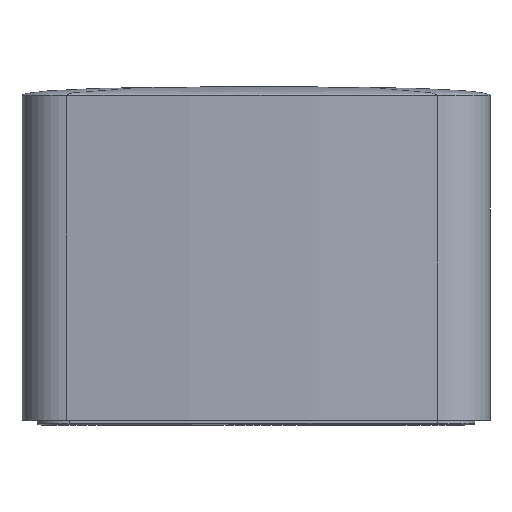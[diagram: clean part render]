
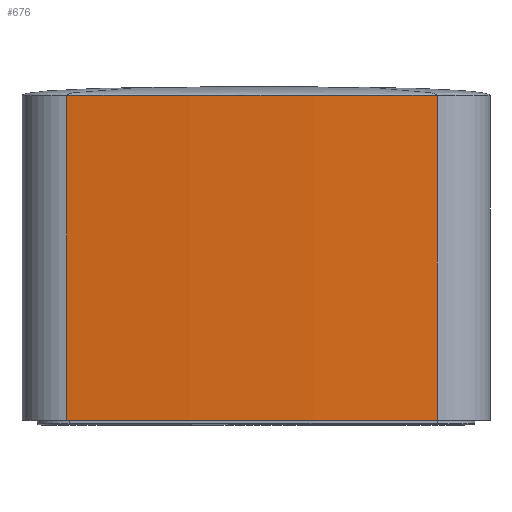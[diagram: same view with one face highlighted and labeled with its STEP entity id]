
A CAD part, top view. The second image highlights one B-rep face of the part: STEP entity #676.
In plain terms, the highlighted cylindrical face has radius 3192.72 mm (diameter 6385.45 mm), a partial arc.
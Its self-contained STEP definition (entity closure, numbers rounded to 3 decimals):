
#66 = ORIENTED_EDGE ( 'NONE', *, *, #729, .T. ) ;
#98 = LINE ( 'NONE', #992, #1354 ) ;
#221 = EDGE_CURVE ( 'NONE', #1043, #1330, #623, .T. ) ;
#247 = DIRECTION ( 'NONE',  ( 0., -1., 0. ) ) ;
#267 = CARTESIAN_POINT ( 'NONE',  ( -221.75, 430., 104.815 ) ) ;
#322 = ORIENTED_EDGE ( 'NONE', *, *, #221, .F. ) ;
#380 = CARTESIAN_POINT ( 'NONE',  ( 269.025, 430., -3049.964 ) ) ;
#404 = CYLINDRICAL_SURFACE ( 'NONE', #881, 3192.725 ) ;
#424 = EDGE_CURVE ( 'NONE', #1597, #1043, #1612, .T. ) ;
#460 = DIRECTION ( 'NONE',  ( 0., -1., 0. ) ) ;
#575 = DIRECTION ( 'NONE',  ( 0., -1., 0. ) ) ;
#577 = VERTEX_POINT ( 'NONE', #267 ) ;
#612 = EDGE_LOOP ( 'NONE', ( #322, #703, #915, #66 ) ) ;
#623 = CIRCLE ( 'NONE', #1113, 3192.725 ) ;
#665 = CARTESIAN_POINT ( 'NONE',  ( 269.049, 430., 142.761 ) ) ;
#667 = CARTESIAN_POINT ( 'NONE',  ( -221.75, 0., 104.815 ) ) ;
#676 = ADVANCED_FACE ( 'NONE', ( #1068 ), #404, .T. ) ;
#703 = ORIENTED_EDGE ( 'NONE', *, *, #424, .F. ) ;
#729 = EDGE_CURVE ( 'NONE', #577, #1330, #98, .T. ) ;
#817 = AXIS2_PLACEMENT_3D ( 'NONE', #1318, #575, #1448 ) ;
#881 = AXIS2_PLACEMENT_3D ( 'NONE', #380, #1377, #1248 ) ;
#915 = ORIENTED_EDGE ( 'NONE', *, *, #919, .T. ) ;
#919 = EDGE_CURVE ( 'NONE', #1597, #577, #1457, .T. ) ;
#939 = CARTESIAN_POINT ( 'NONE',  ( 269.049, 430., 142.761 ) ) ;
#951 = DIRECTION ( 'NONE',  ( 0., 0., 1. ) ) ;
#992 = CARTESIAN_POINT ( 'NONE',  ( -221.75, 430., 104.815 ) ) ;
#1043 = VERTEX_POINT ( 'NONE', #1129 ) ;
#1068 = FACE_OUTER_BOUND ( 'NONE', #612, .T. ) ;
#1113 = AXIS2_PLACEMENT_3D ( 'NONE', #1205, #460, #951 ) ;
#1129 = CARTESIAN_POINT ( 'NONE',  ( 269.049, 0., 142.761 ) ) ;
#1205 = CARTESIAN_POINT ( 'NONE',  ( 269.025, 0., -3049.964 ) ) ;
#1248 = DIRECTION ( 'NONE',  ( 0., 0., -1. ) ) ;
#1282 = DIRECTION ( 'NONE',  ( 0., -1., 0. ) ) ;
#1318 = CARTESIAN_POINT ( 'NONE',  ( 269.025, 430., -3049.964 ) ) ;
#1330 = VERTEX_POINT ( 'NONE', #667 ) ;
#1354 = VECTOR ( 'NONE', #247, 1000. ) ;
#1377 = DIRECTION ( 'NONE',  ( 0., -1., 0. ) ) ;
#1448 = DIRECTION ( 'NONE',  ( 0., 0., 1. ) ) ;
#1457 = CIRCLE ( 'NONE', #817, 3192.725 ) ;
#1535 = VECTOR ( 'NONE', #1282, 1000. ) ;
#1597 = VERTEX_POINT ( 'NONE', #665 ) ;
#1612 = LINE ( 'NONE', #939, #1535 ) ;
